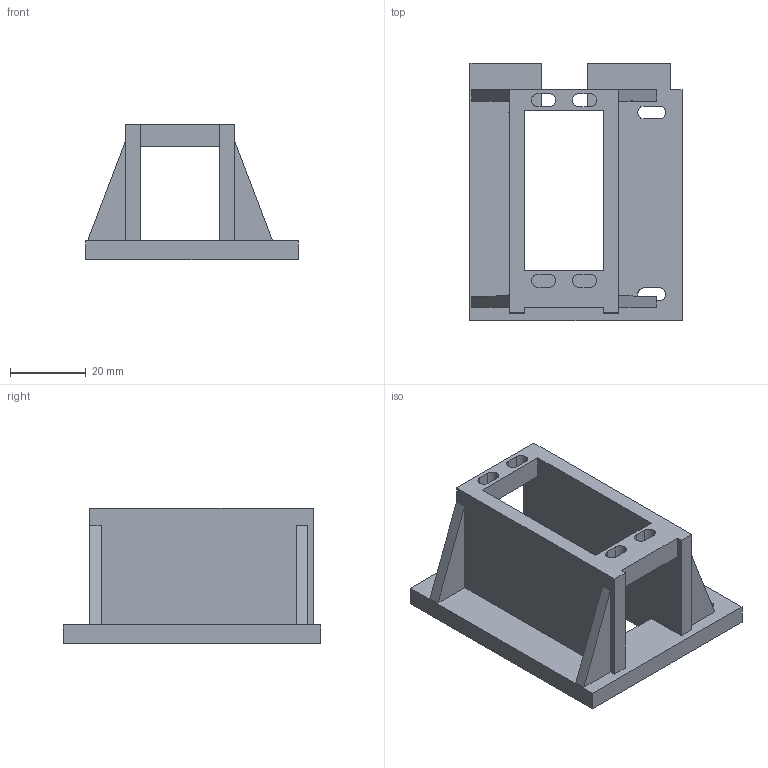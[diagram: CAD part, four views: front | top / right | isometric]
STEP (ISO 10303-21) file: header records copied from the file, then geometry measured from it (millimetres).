
FILE_DESCRIPTION(('Open CASCADE Model'),'2;1');
FILE_NAME('Open CASCADE Shape Model','2026-10-22T07:40:53',('Author'),( 'Open CASCADE'),'Open CASCADE STEP processor 7.8','Open CASCADE 7.8' ,'Unknown');
FILE_SCHEMA(('AUTOMOTIVE_DESIGN { 1 0 10303 214 1 1 1 1 }'));
Length unit declared in the file: millimetre
Products named in the file (1): Open CASCADE STEP translator 7.8 1
Bounding box: 56 x 68 x 35.8 mm (x, y, z)
Volume: 30894.9 mm3; surface area: 17510.2 mm2
Topology: 1 solids, 1 shells, 72 faces, 237 edges, 158 vertices
Faces by surface type: plane 56, cylinder 16
Entity records: 5809 total; most frequent: CARTESIAN_POINT 1134, DIRECTION 862, LINE 637, VECTOR 637, ORIENTED_EDGE 474, PCURVE 474, DEFINITIONAL_REPRESENTATION 474, EDGE_CURVE 237
